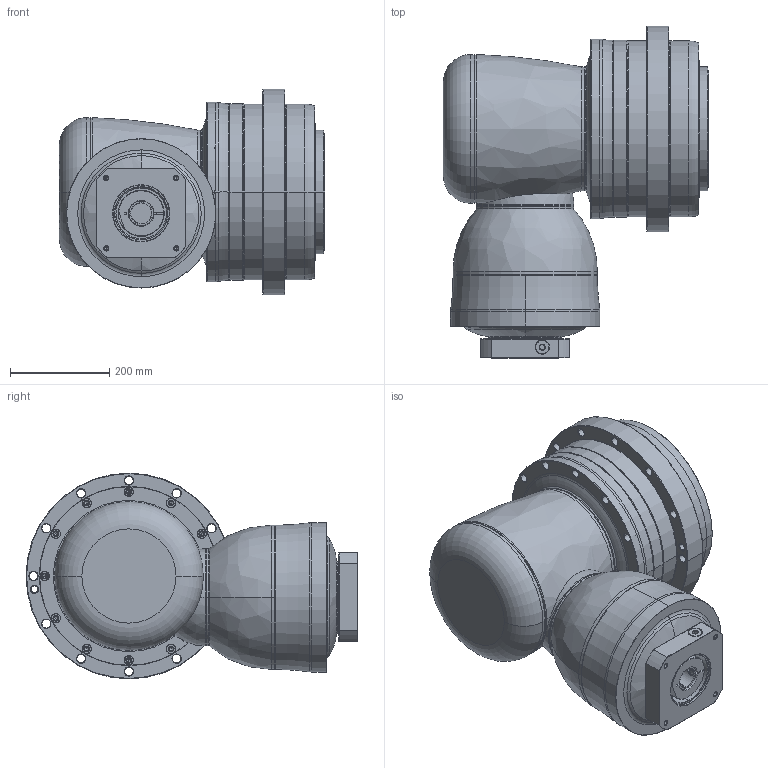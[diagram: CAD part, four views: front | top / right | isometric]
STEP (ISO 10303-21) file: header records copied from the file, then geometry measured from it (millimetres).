
FILE_DESCRIPTION((''),'2;1');
FILE_NAME('AHKB355_3ST_42-P0409A00101_ASM','2016-12-09T',('d01943'),(''),'PRO/ENGINEER BY PARAMETRIC TECHNOLOGY CORPORATION, 2008410','PRO/ENGINEER BY PARAMETRIC TECHNOLOGY CORPORATION, 2008410','');
FILE_SCHEMA(('CONFIG_CONTROL_DESIGN'));
Length unit declared in the file: millimetre
Products named in the file (12): P1008800002; P1831100001; P0276100003; P0357100003; P1315800001; P1007800001; P1317800201; P0409A00101; P0503A00012; P0912702001; 21711422019; AHKB355_3ST_42-P0409A00101_ASM
Assembly tree (11 placements, depth 2):
  AHKB355_3ST_42-P0409A00101_ASM
    P1008800002
    P1831100001
    P0276100003
    P0357100003
    P1315800001
    P1007800001
    P1317800201
    P0409A00101
    P0503A00012
    P0912702001
    21711422019
Bounding box: 535 x 669.5 x 415 mm (x, y, z)
Volume: 44480914.7 mm3; surface area: 2442105.1 mm2
Topology: 12 solids, 12 shells, 1055 faces, 2346 edges, 1342 vertices
Faces by surface type: cylinder 381, cone 374, torus 142, plane 130, bspline 26, sphere 2
Entity records: 34150 total; most frequent: CARTESIAN_POINT 10136, DIRECTION 5574, ORIENTED_EDGE 4516, AXIS2_PLACEMENT_3D 2376, EDGE_CURVE 2258, VERTEX_POINT 1342, CIRCLE 1324, EDGE_LOOP 1270
